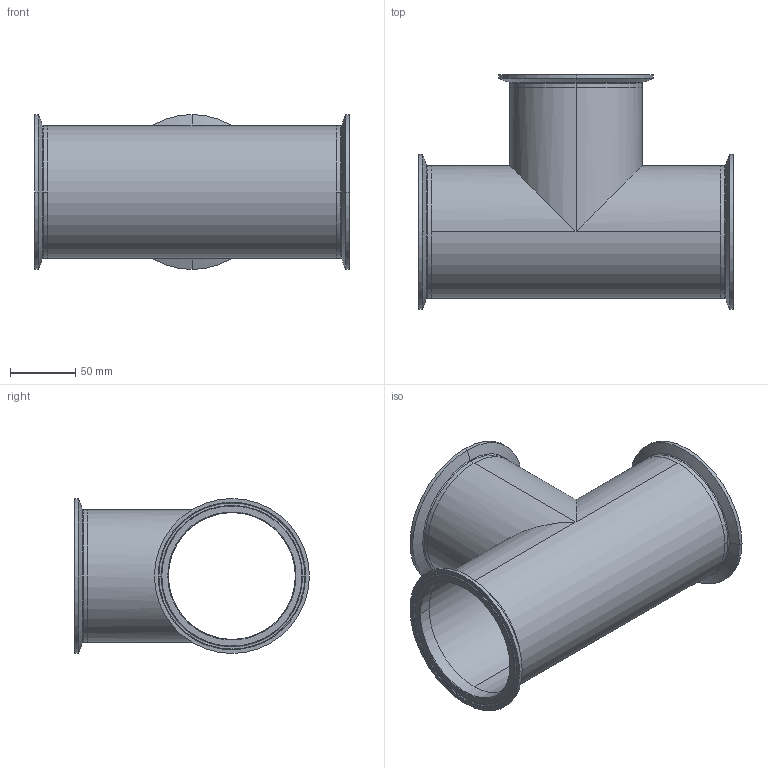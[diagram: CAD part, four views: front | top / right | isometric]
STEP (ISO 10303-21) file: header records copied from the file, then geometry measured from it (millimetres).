
FILE_DESCRIPTION (( 'STEP AP214' ), '1' );
FILE_NAME ('TEG76L4.0-...STEP', '2016-05-23T07:06:58', ( 'eran' ), ( '' ), 'SwSTEP 2.0', 'SolidWorks 2016', '' );
FILE_SCHEMA (( 'AUTOMOTIVE_DESIGN' ));
Length unit declared in the file: millimetre
Products named in the file (1): TEG76L4.0-..
Bounding box: 241.4 x 180.16 x 118.92 mm (x, y, z)
Volume: 235110.7 mm3; surface area: 208960 mm2
Topology: 4 solids, 4 shells, 88 faces, 218 edges, 140 vertices
Faces by surface type: bspline 30, cylinder 28, cone 18, plane 12
Entity records: 4677 total; most frequent: CARTESIAN_POINT 2535, DIRECTION 462, ORIENTED_EDGE 436, EDGE_CURVE 218, AXIS2_PLACEMENT_3D 207, CIRCLE 148, VERTEX_POINT 140, EDGE_LOOP 100
